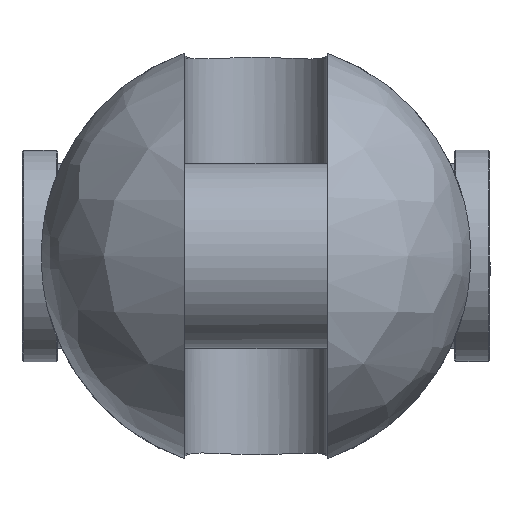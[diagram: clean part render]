
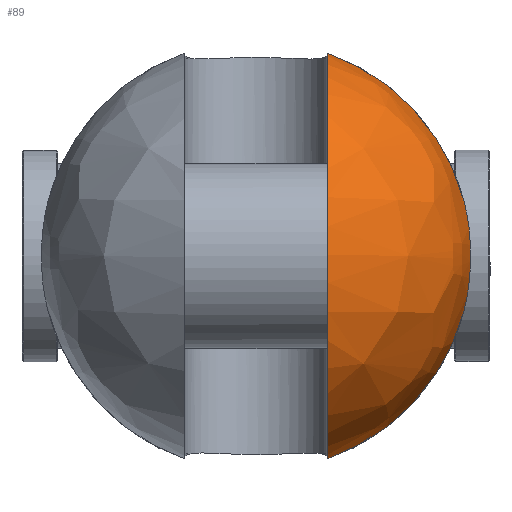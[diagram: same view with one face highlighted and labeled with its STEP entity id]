
A CAD part, left-side view. The second image highlights one B-rep face of the part: STEP entity #89.
In plain terms, the highlighted free-form (B-spline) face has degree [2, 2] with [9, 5] control points.
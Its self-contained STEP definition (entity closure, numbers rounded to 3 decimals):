
#89=ADVANCED_FACE('',(#164),#1306,.T.);
#164=FACE_OUTER_BOUND('',#249,.T.);
#249=EDGE_LOOP('',(#583,#584,#585,#586));
#583=ORIENTED_EDGE('',*,*,#807,.T.);
#584=ORIENTED_EDGE('',*,*,#835,.F.);
#585=ORIENTED_EDGE('',*,*,#847,.T.);
#586=ORIENTED_EDGE('',*,*,#827,.F.);
#807=EDGE_CURVE('',#1192,#1191,#1045,.T.);
#827=EDGE_CURVE('',#1192,#1204,#1055,.T.);
#835=EDGE_CURVE('',#1211,#1191,#1056,.T.);
#847=EDGE_CURVE('',#1211,#1204,#963,.T.);
#963=B_SPLINE_CURVE_WITH_KNOTS('',3,(#3152,#3153,#3154,#3155,#3156,#3157,
#3158,#3159,#3160,#3161,#3162,#3163,#3164,#3165),.UNSPECIFIED.,.F.,.F.,
(4,2,2,2,2,2,4),(0.,4.814,11.279,17.744,
24.209,30.674,35.488),.UNSPECIFIED.);
#1045=(
BOUNDED_CURVE()
B_SPLINE_CURVE(2,(#2896,#2897,#2898,#2899,#2900),.UNSPECIFIED.,.F.,.F.)
B_SPLINE_CURVE_WITH_KNOTS((3,2,3),(-195.487,-97.743,
0.),.UNSPECIFIED.)
CURVE()
GEOMETRIC_REPRESENTATION_ITEM()
RATIONAL_B_SPLINE_CURVE((1.,0.707,1.,0.707,1.))
REPRESENTATION_ITEM('')
);
#1055=(
BOUNDED_CURVE()
B_SPLINE_CURVE(2,(#3022,#3023,#3024),.UNSPECIFIED.,.F.,.F.)
B_SPLINE_CURVE_WITH_KNOTS((3,3),(0.,64.287),.UNSPECIFIED.)
CURVE()
GEOMETRIC_REPRESENTATION_ITEM()
RATIONAL_B_SPLINE_CURVE((1.,0.884,1.))
REPRESENTATION_ITEM('')
);
#1056=(
BOUNDED_CURVE()
B_SPLINE_CURVE(2,(#3079,#3080,#3081),.UNSPECIFIED.,.F.,.F.)
B_SPLINE_CURVE_WITH_KNOTS((3,3),(0.,64.287),.UNSPECIFIED.)
CURVE()
GEOMETRIC_REPRESENTATION_ITEM()
RATIONAL_B_SPLINE_CURVE((1.,0.884,1.))
REPRESENTATION_ITEM('')
);
#1191=VERTEX_POINT('',#2837);
#1192=VERTEX_POINT('',#2838);
#1204=VERTEX_POINT('',#2850);
#1211=VERTEX_POINT('',#2857);
#1306=(
BOUNDED_SURFACE()
B_SPLINE_SURFACE(2,2,((#2445,#2446,#2447,#2448,#2449),(#2450,#2451,#2452,
#2453,#2454),(#2455,#2456,#2457,#2458,#2459),(#2460,#2461,#2462,#2463,#2464),
(#2465,#2466,#2467,#2468,#2469),(#2470,#2471,#2472,#2473,#2474),(#2475,
#2476,#2477,#2478,#2479),(#2480,#2481,#2482,#2483,#2484),(#2485,#2486,#2487,
#2488,#2489)),.UNSPECIFIED.,.T.,.F.,.F.)
B_SPLINE_SURFACE_WITH_KNOTS((3,2,2,2,3),(3,2,3),(0.,103.673,207.345,
311.018,414.69),(0.,103.673,207.345),
 .UNSPECIFIED.)
GEOMETRIC_REPRESENTATION_ITEM()
RATIONAL_B_SPLINE_SURFACE(((1.,0.707,1.,0.707,1.),
(0.707,0.5,0.707,0.5,0.707),(1.,0.707,
1.,0.707,1.),(0.707,0.5,0.707,0.5,0.707),
(1.,0.707,1.,0.707,1.),(0.707,0.5,0.707,
0.5,0.707),(1.,0.707,1.,0.707,1.),(0.707,
0.5,0.707,0.5,0.707),(1.,0.707,1.,0.707,
1.)))
REPRESENTATION_ITEM('')
SURFACE()
);
#2445=CARTESIAN_POINT('',(-95.,0.,0.));
#2446=CARTESIAN_POINT('',(-95.,66.,0.));
#2447=CARTESIAN_POINT('',(-29.,66.,0.));
#2448=CARTESIAN_POINT('',(37.,66.,0.));
#2449=CARTESIAN_POINT('',(37.,0.,0.));
#2450=CARTESIAN_POINT('',(-95.,0.,0.));
#2451=CARTESIAN_POINT('',(-95.,66.,66.));
#2452=CARTESIAN_POINT('',(-29.,66.,66.));
#2453=CARTESIAN_POINT('',(37.,66.,66.));
#2454=CARTESIAN_POINT('',(37.,0.,0.));
#2455=CARTESIAN_POINT('',(-95.,0.,0.));
#2456=CARTESIAN_POINT('',(-95.,0.,66.));
#2457=CARTESIAN_POINT('',(-29.,0.,66.));
#2458=CARTESIAN_POINT('',(37.,0.,66.));
#2459=CARTESIAN_POINT('',(37.,0.,0.));
#2460=CARTESIAN_POINT('',(-95.,0.,0.));
#2461=CARTESIAN_POINT('',(-95.,-66.,66.));
#2462=CARTESIAN_POINT('',(-29.,-66.,66.));
#2463=CARTESIAN_POINT('',(37.,-66.,66.));
#2464=CARTESIAN_POINT('',(37.,0.,0.));
#2465=CARTESIAN_POINT('',(-95.,0.,0.));
#2466=CARTESIAN_POINT('',(-95.,-66.,0.));
#2467=CARTESIAN_POINT('',(-29.,-66.,0.));
#2468=CARTESIAN_POINT('',(37.,-66.,0.));
#2469=CARTESIAN_POINT('',(37.,0.,0.));
#2470=CARTESIAN_POINT('',(-95.,0.,0.));
#2471=CARTESIAN_POINT('',(-95.,-66.,-66.));
#2472=CARTESIAN_POINT('',(-29.,-66.,-66.));
#2473=CARTESIAN_POINT('',(37.,-66.,-66.));
#2474=CARTESIAN_POINT('',(37.,0.,0.));
#2475=CARTESIAN_POINT('',(-95.,0.,0.));
#2476=CARTESIAN_POINT('',(-95.,0.,-66.));
#2477=CARTESIAN_POINT('',(-29.,0.,-66.));
#2478=CARTESIAN_POINT('',(37.,0.,-66.));
#2479=CARTESIAN_POINT('',(37.,0.,0.));
#2480=CARTESIAN_POINT('',(-95.,0.,0.));
#2481=CARTESIAN_POINT('',(-95.,66.,-66.));
#2482=CARTESIAN_POINT('',(-29.,66.,-66.));
#2483=CARTESIAN_POINT('',(37.,66.,-66.));
#2484=CARTESIAN_POINT('',(37.,0.,0.));
#2485=CARTESIAN_POINT('',(-95.,0.,0.));
#2486=CARTESIAN_POINT('',(-95.,66.,0.));
#2487=CARTESIAN_POINT('',(-29.,66.,0.));
#2488=CARTESIAN_POINT('',(37.,66.,0.));
#2489=CARTESIAN_POINT('',(37.,0.,0.));
#2837=CARTESIAN_POINT('',(-29.,-22.,-62.225));
#2838=CARTESIAN_POINT('',(-29.,-22.,62.225));
#2850=CARTESIAN_POINT('',(-29.,-63.834,16.771));
#2857=CARTESIAN_POINT('',(-29.,-63.834,-16.771));
#2896=CARTESIAN_POINT('',(-29.,-22.,62.225));
#2897=CARTESIAN_POINT('',(-91.225,-22.,62.225));
#2898=CARTESIAN_POINT('',(-91.225,-22.,0.));
#2899=CARTESIAN_POINT('',(-91.225,-22.,-62.225));
#2900=CARTESIAN_POINT('',(-29.,-22.,-62.225));
#3022=CARTESIAN_POINT('',(-29.,-22.,62.225));
#3023=CARTESIAN_POINT('',(-29.,-54.953,50.575));
#3024=CARTESIAN_POINT('',(-29.,-63.834,16.771));
#3079=CARTESIAN_POINT('',(-29.,-63.834,-16.771));
#3080=CARTESIAN_POINT('',(-29.,-54.953,-50.575));
#3081=CARTESIAN_POINT('',(-29.,-22.,-62.225));
#3152=CARTESIAN_POINT('',(-29.,-63.834,-16.771));
#3153=CARTESIAN_POINT('',(-29.789,-64.192,-15.406));
#3154=CARTESIAN_POINT('',(-30.492,-64.508,-13.967));
#3155=CARTESIAN_POINT('',(-31.89,-65.135,-10.483));
#3156=CARTESIAN_POINT('',(-32.502,-65.406,-8.394));
#3157=CARTESIAN_POINT('',(-33.307,-65.762,-4.182));
#3158=CARTESIAN_POINT('',(-33.5,-65.846,-2.058));
#3159=CARTESIAN_POINT('',(-33.5,-65.846,2.058));
#3160=CARTESIAN_POINT('',(-33.307,-65.762,4.182));
#3161=CARTESIAN_POINT('',(-32.502,-65.406,8.394));
#3162=CARTESIAN_POINT('',(-31.89,-65.135,10.483));
#3163=CARTESIAN_POINT('',(-30.492,-64.508,13.967));
#3164=CARTESIAN_POINT('',(-29.789,-64.192,15.406));
#3165=CARTESIAN_POINT('',(-29.,-63.834,16.771));
